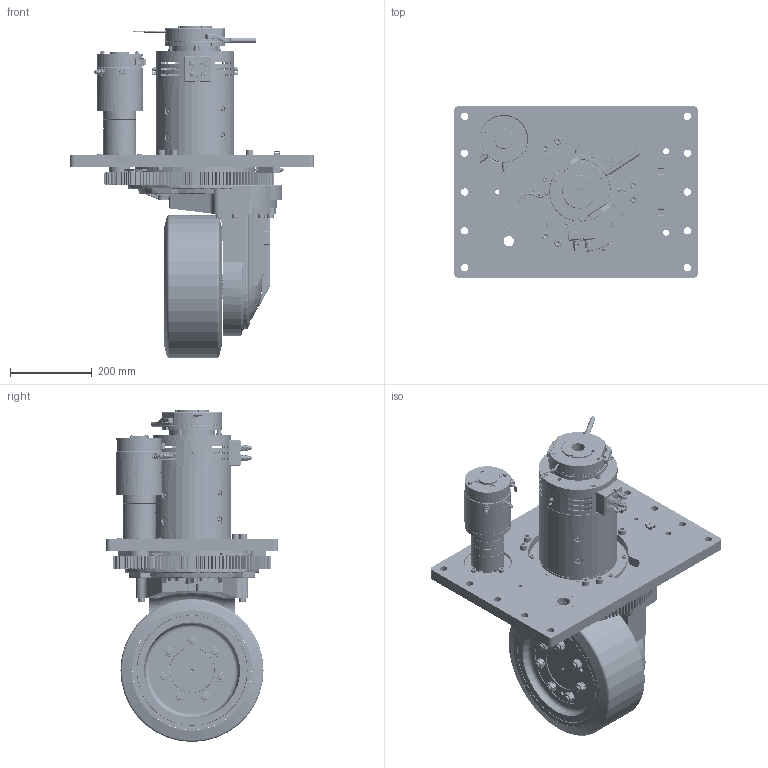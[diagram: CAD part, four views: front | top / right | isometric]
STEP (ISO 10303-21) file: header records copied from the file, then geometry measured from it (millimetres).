
FILE_DESCRIPTION(/* description */ (''),/* implementation_level */ '2;1');
FILE_NAME(/* name */ 'C:\Users\marco bosi\Desktop\WR350FMS-DC.stp',/* time_stamp */ '2023-07-18T12:06:02+02:00',/* author */ ('marco bosi'),/* organization */ (''),/* preprocessor_version */ 'ST-DEVELOPER v18.1',/* originating_system */ 'Autodesk Inventor 2022',/* authorisation */ '');
FILE_SCHEMA (('AUTOMOTIVE_DESIGN { 1 0 10303 214 3 1 1 }'));
Length unit declared in the file: millimetre
Products named in the file (1): WR350.P017_Semplifica_1
Bounding box: 595 x 420 x 812.1 mm (x, y, z)
Volume: 25248334.3 mm3; surface area: 3326745.9 mm2
Topology: 30 solids, 44 shells, 13734 faces, 36298 edges, 23810 vertices
Faces by surface type: plane 9463, cylinder 2722, cone 900, torus 332, bspline 289, sphere 28
Full cylindrical faces by diameter (mm): 1.88 x2, 2.1 x8, 2.459 x8, 2.5 x13, 2.6 x1, 3 x10, 4 x2, 4.1 x2, 4.134 x4, 4.25 x2, 4.5 x6, 4.8 x8, 4.917 x23, 5 x19, 5.3 x5, 5.5 x10, 6 x17, 6.4 x16, 6.5 x10, 6.6 x9, 6.647 x12, 6.75 x6, 6.8 x3, 7 x6, 7.5 x1, 8 x40, 8.2 x6, 8.376 x8, 8.4 x6, 8.5 x31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
Entity records: 513636 total; most frequent: CARTESIAN_POINT 157361, ORIENTED_EDGE 72349, DIRECTION 70908, EDGE_CURVE 36196, AXIS2_PLACEMENT_3D 24911, VERTEX_POINT 23829, LINE 21086, VECTOR 21086
